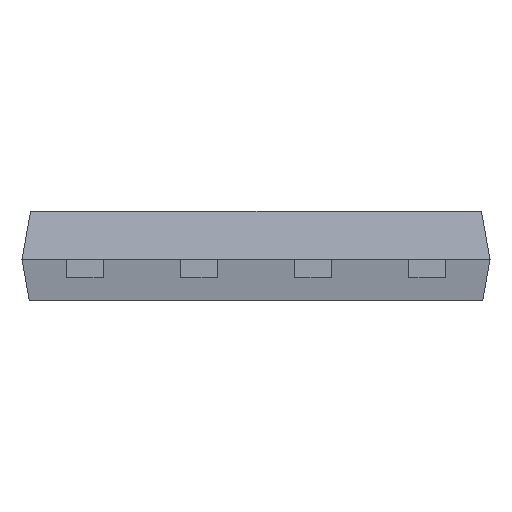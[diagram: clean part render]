
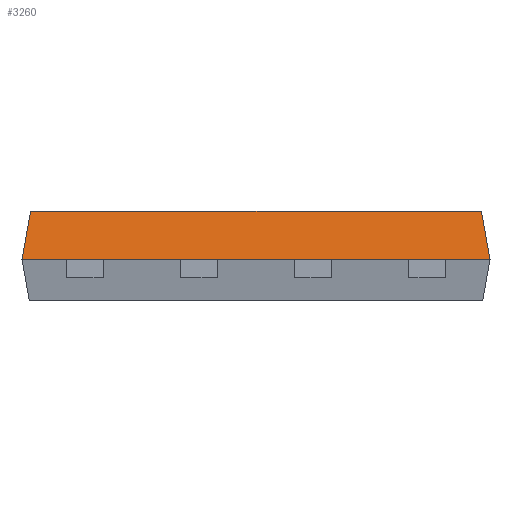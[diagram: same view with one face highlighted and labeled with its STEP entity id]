
A CAD part, front view. The second image highlights one B-rep face of the part: STEP entity #3260.
In plain terms, the highlighted planar face has unit normal (0, -0.985, 0.174).
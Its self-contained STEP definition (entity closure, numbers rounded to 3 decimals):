
#2 = ORIENTED_EDGE ( 'NONE', *, *, #3380, .F. ) ;
#60 = CARTESIAN_POINT ( 'NONE',  ( -2.51, -15.26, 0.54 ) ) ;
#204 = EDGE_CURVE ( 'NONE', #3162, #1126, #1416, .T. ) ;
#289 = CARTESIAN_POINT ( 'NONE',  ( 2.561, -15.311, 0.249 ) ) ;
#310 = DIRECTION ( 'NONE',  ( -0.171, -0.171, -0.97 ) ) ;
#1126 = VERTEX_POINT ( 'NONE', #3552 ) ;
#1149 = CARTESIAN_POINT ( 'NONE',  ( 2.51, -15.26, 0.54 ) ) ;
#1183 = EDGE_LOOP ( 'NONE', ( #1616, #1300, #2, #3808 ) ) ;
#1300 = ORIENTED_EDGE ( 'NONE', *, *, #204, .F. ) ;
#1329 = FACE_OUTER_BOUND ( 'NONE', #1183, .T. ) ;
#1358 = DIRECTION ( 'NONE',  ( 1., 0., 0. ) ) ;
#1410 = DIRECTION ( 'NONE',  ( 1., 0., 0. ) ) ;
#1415 = CARTESIAN_POINT ( 'NONE',  ( -2.605, -15.355, 0. ) ) ;
#1416 = LINE ( 'NONE', #289, #2205 ) ;
#1459 = DIRECTION ( 'NONE',  ( 0., -0.985, 0.174 ) ) ;
#1514 = EDGE_CURVE ( 'NONE', #2690, #1126, #1822, .T. ) ;
#1616 = ORIENTED_EDGE ( 'NONE', *, *, #1514, .T. ) ;
#1822 = LINE ( 'NONE', #1415, #3199 ) ;
#1886 = CARTESIAN_POINT ( 'NONE',  ( -2.605, -15.355, 0. ) ) ;
#2046 = AXIS2_PLACEMENT_3D ( 'NONE', #3430, #1459, #3764 ) ;
#2066 = EDGE_CURVE ( 'NONE', #2245, #2690, #4219, .T. ) ;
#2205 = VECTOR ( 'NONE', #3911, 1000. ) ;
#2245 = VERTEX_POINT ( 'NONE', #60 ) ;
#2505 = VECTOR ( 'NONE', #1358, 1000. ) ;
#2640 = VECTOR ( 'NONE', #310, 1000. ) ;
#2690 = VERTEX_POINT ( 'NONE', #1886 ) ;
#2756 = PLANE ( 'NONE',  #2046 ) ;
#2981 = CARTESIAN_POINT ( 'NONE',  ( -2.605, -15.355, 0. ) ) ;
#3162 = VERTEX_POINT ( 'NONE', #1149 ) ;
#3199 = VECTOR ( 'NONE', #1410, 1000. ) ;
#3260 = ADVANCED_FACE ( 'NONE', ( #1329 ), #2756, .T. ) ;
#3380 = EDGE_CURVE ( 'NONE', #2245, #3162, #3537, .T. ) ;
#3430 = CARTESIAN_POINT ( 'NONE',  ( -2.605, -15.355, 0. ) ) ;
#3537 = LINE ( 'NONE', #4021, #2505 ) ;
#3552 = CARTESIAN_POINT ( 'NONE',  ( 2.605, -15.355, 0. ) ) ;
#3764 = DIRECTION ( 'NONE',  ( 0., -0.174, -0.985 ) ) ;
#3808 = ORIENTED_EDGE ( 'NONE', *, *, #2066, .T. ) ;
#3911 = DIRECTION ( 'NONE',  ( 0.171, -0.171, -0.97 ) ) ;
#4021 = CARTESIAN_POINT ( 'NONE',  ( -2.605, -15.26, 0.54 ) ) ;
#4219 = LINE ( 'NONE', #2981, #2640 ) ;
